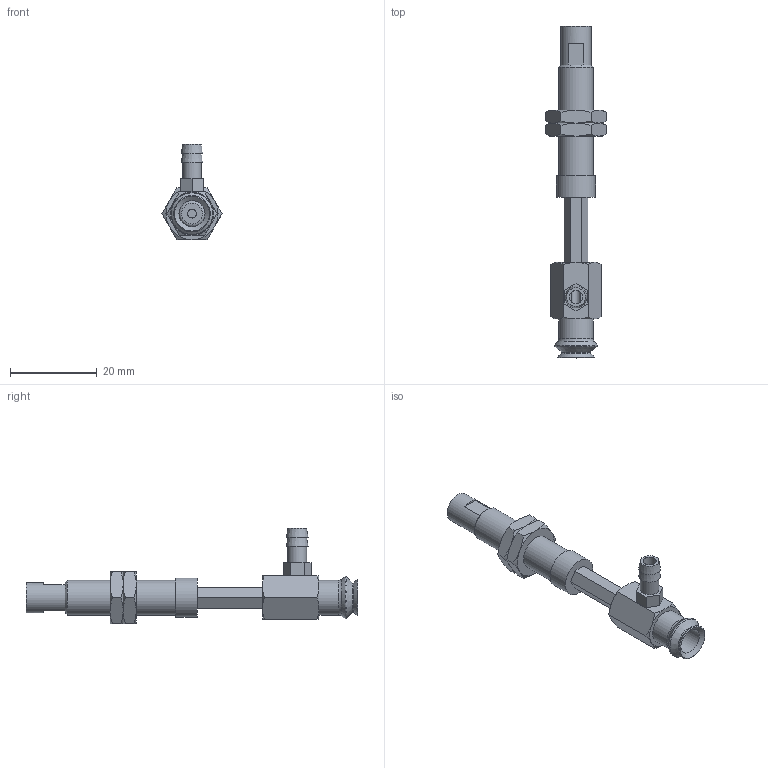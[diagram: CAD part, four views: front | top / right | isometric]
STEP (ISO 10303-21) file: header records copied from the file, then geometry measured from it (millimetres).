
FILE_DESCRIPTION(('STEP AP203'),'1');
FILE_NAME('-T.stp','2025-04-24T06:04:49',(' '),(' '),'Spatial InterOp 3D',' ',' ');
FILE_SCHEMA(('CONFIG_CONTROL_DESIGN'));
Length unit declared in the file: millimetre
Products named in the file (7): BNABPJYH-8-15-※-T; CONNECTOR_H-8-15; NAPJH-8-15-NUT; NAPJTH-8-15-FBODY; NAPJTH-8-15-MBODY; BPJG-8-※; T
Assembly tree (7 placements, depth 2):
  BNABPJYH-8-15-※-T
    CONNECTOR_H-8-15
    NAPJH-8-15-NUT  x2
    NAPJTH-8-15-FBODY
    NAPJTH-8-15-MBODY
    BPJG-8-※
    T
Bounding box: 13.86 x 76.5 x 22 mm (x, y, z)
Volume: 4065.8 mm3; surface area: 5254.6 mm2
Topology: 7 solids, 7 shells, 154 faces, 331 edges, 202 vertices
Faces by surface type: plane 73, cone 55, cylinder 17, torus 9
Full cylindrical faces by diameter (mm): 2 x1, 3 x1, 4 x2, 4.134 x2, 4.3 x1, 5 x2, 6 x2, 7 x1, 7.188 x2, 8 x2, 9 x1
Entity records: 3866 total; most frequent: CARTESIAN_POINT 889, DIRECTION 546, ORIENTED_EDGE 470, EDGE_CURVE 235, AXIS2_PLACEMENT_3D 226, EDGE_LOOP 194, VERTEX_POINT 167, FACE_OUTER_BOUND 156
